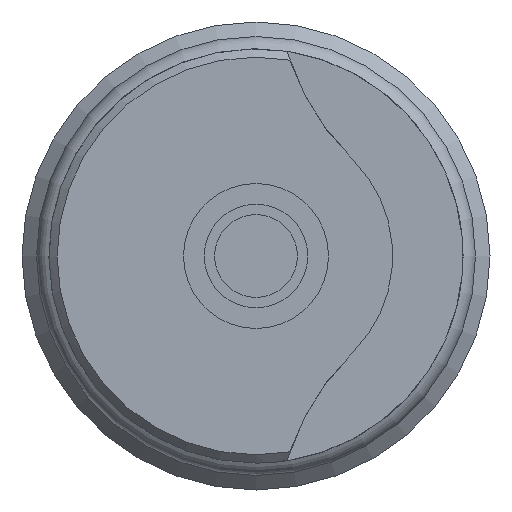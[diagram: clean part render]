
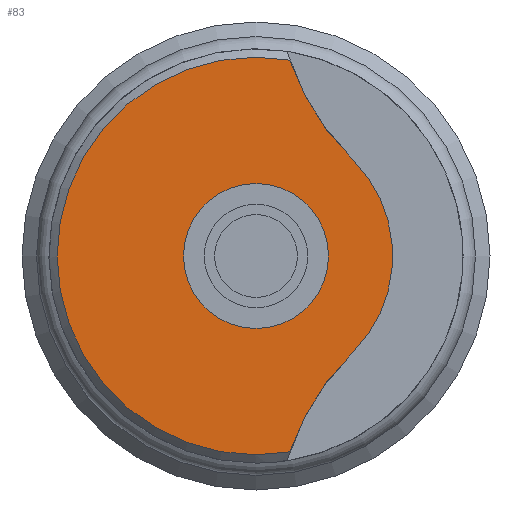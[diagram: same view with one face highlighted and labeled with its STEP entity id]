
A CAD part, left-side view. The second image highlights one B-rep face of the part: STEP entity #83.
In plain terms, the highlighted planar face has unit normal (-1, 0, 0).
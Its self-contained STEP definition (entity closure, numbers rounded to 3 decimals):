
#83 = ADVANCED_FACE( '', ( #205, #206 ), #207, .F. );
#205 = FACE_OUTER_BOUND( '', #378, .T. );
#206 = FACE_BOUND( '', #379, .T. );
#207 = PLANE( '', #380 );
#378 = EDGE_LOOP( '', ( #569, #570, #571, #572 ) );
#379 = EDGE_LOOP( '', ( #573 ) );
#380 = AXIS2_PLACEMENT_3D( '', #574, #575, #576 );
#569 = ORIENTED_EDGE( '', *, *, #920, .F. );
#570 = ORIENTED_EDGE( '', *, *, #921, .T. );
#571 = ORIENTED_EDGE( '', *, *, #922, .F. );
#572 = ORIENTED_EDGE( '', *, *, #923, .T. );
#573 = ORIENTED_EDGE( '', *, *, #924, .T. );
#574 = CARTESIAN_POINT( '', ( 0., 1.75, 0. ) );
#575 = DIRECTION( '', ( 1., 0., 0. ) );
#576 = DIRECTION( '', ( 0., 0., -1. ) );
#920 = EDGE_CURVE( '', #1079, #1080, #1081, .T. );
#921 = EDGE_CURVE( '', #1079, #1082, #1083, .T. );
#922 = EDGE_CURVE( '', #1084, #1082, #1085, .T. );
#923 = EDGE_CURVE( '', #1084, #1080, #1086, .T. );
#924 = EDGE_CURVE( '', #1087, #1087, #1088, .T. );
#1079 = VERTEX_POINT( '', #1295 );
#1080 = VERTEX_POINT( '', #1296 );
#1081 = CIRCLE( '', #1297, 4.8 );
#1082 = VERTEX_POINT( '', #1298 );
#1083 = CIRCLE( '', #1299, 6. );
#1084 = VERTEX_POINT( '', #1300 );
#1085 = CIRCLE( '', #1301, 3.3 );
#1086 = CIRCLE( '', #1302, 6. );
#1087 = VERTEX_POINT( '', #1303 );
#1088 = CIRCLE( '', #1304, 1.75 );
#1295 = CARTESIAN_POINT( '', ( 0., -0.815, -4.73 ) );
#1296 = CARTESIAN_POINT( '', ( 0., -0.815, 4.73 ) );
#1297 = AXIS2_PLACEMENT_3D( '', #1549, #1550, #1551 );
#1298 = CARTESIAN_POINT( '', ( 0., -2.352, -2.315 ) );
#1299 = AXIS2_PLACEMENT_3D( '', #1552, #1553, #1554 );
#1300 = CARTESIAN_POINT( '', ( 0., -2.352, 2.315 ) );
#1301 = AXIS2_PLACEMENT_3D( '', #1555, #1556, #1557 );
#1302 = AXIS2_PLACEMENT_3D( '', #1558, #1559, #1560 );
#1303 = CARTESIAN_POINT( '', ( 0., 0., -1.75 ) );
#1304 = AXIS2_PLACEMENT_3D( '', #1561, #1562, #1563 );
#1549 = CARTESIAN_POINT( '', ( 0., 0., 0. ) );
#1550 = DIRECTION( '', ( 1., 0., 0. ) );
#1551 = DIRECTION( '', ( 0., 0., -1. ) );
#1552 = CARTESIAN_POINT( '', ( 0., -6.5, -6.65 ) );
#1553 = DIRECTION( '', ( 1., 0., 0. ) );
#1554 = DIRECTION( '', ( 0., 0., -1. ) );
#1555 = CARTESIAN_POINT( '', ( 0., 0., 0. ) );
#1556 = DIRECTION( '', ( 1., 0., 0. ) );
#1557 = DIRECTION( '', ( 0., 0., -1. ) );
#1558 = CARTESIAN_POINT( '', ( 0., -6.5, 6.65 ) );
#1559 = DIRECTION( '', ( 1., 0., 0. ) );
#1560 = DIRECTION( '', ( 0., 0., -1. ) );
#1561 = CARTESIAN_POINT( '', ( 0., 0., 0. ) );
#1562 = DIRECTION( '', ( 1., 0., 0. ) );
#1563 = DIRECTION( '', ( 0., 0., -1. ) );
